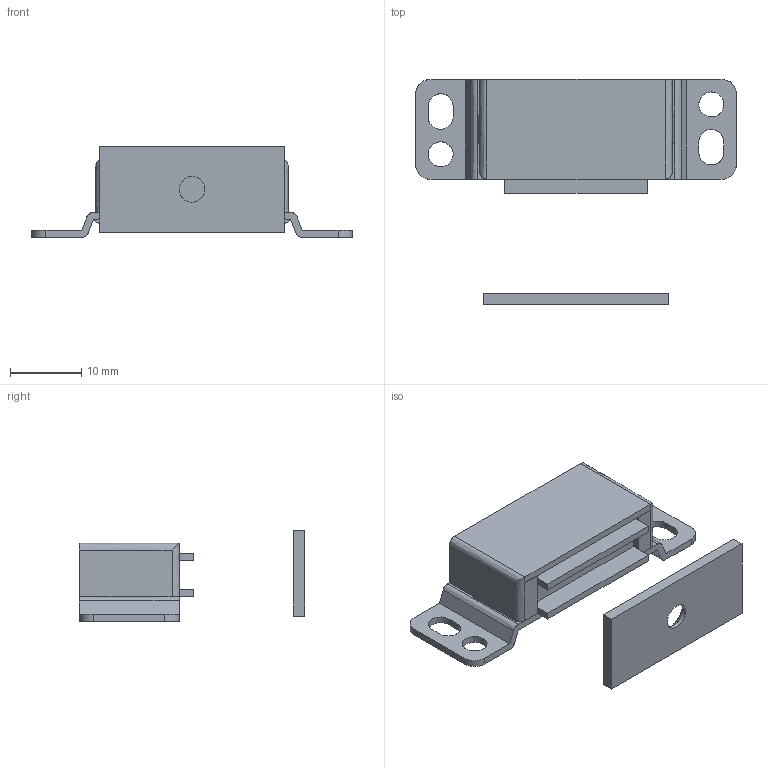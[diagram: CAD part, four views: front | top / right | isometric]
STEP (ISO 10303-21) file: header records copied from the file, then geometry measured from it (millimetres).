
FILE_DESCRIPTION((''),'2;1');
FILE_NAME('','2006-01-16T16:01:27',(''),(''),'','CADfix','');
FILE_SCHEMA(('AUTOMOTIVE_DESIGN'));
Length unit declared in the file: millimetre
Products named in the file (6): attachment; magnet; keeper; housing; base; TL_78_301_36
Assembly tree (6 placements, depth 2):
  TL_78_301_36
    attachment  x2
    magnet
    keeper
    housing
    base
Bounding box: 45 x 31.6 x 12.75 mm (x, y, z)
Volume: 2807.1 mm3; surface area: 5234.8 mm2
Topology: 6 solids, 6 shells, 120 faces, 344 edges, 232 vertices
Faces by surface type: bspline 120
Entity records: 4160 total; most frequent: CARTESIAN_POINT 1984, ORIENTED_EDGE 664, EDGE_CURVE 332, QUASI_UNIFORM_CURVE 248, VERTEX_POINT 224, EDGE_LOOP 124, FACE_OUTER_BOUND 114, ADVANCED_FACE 114
